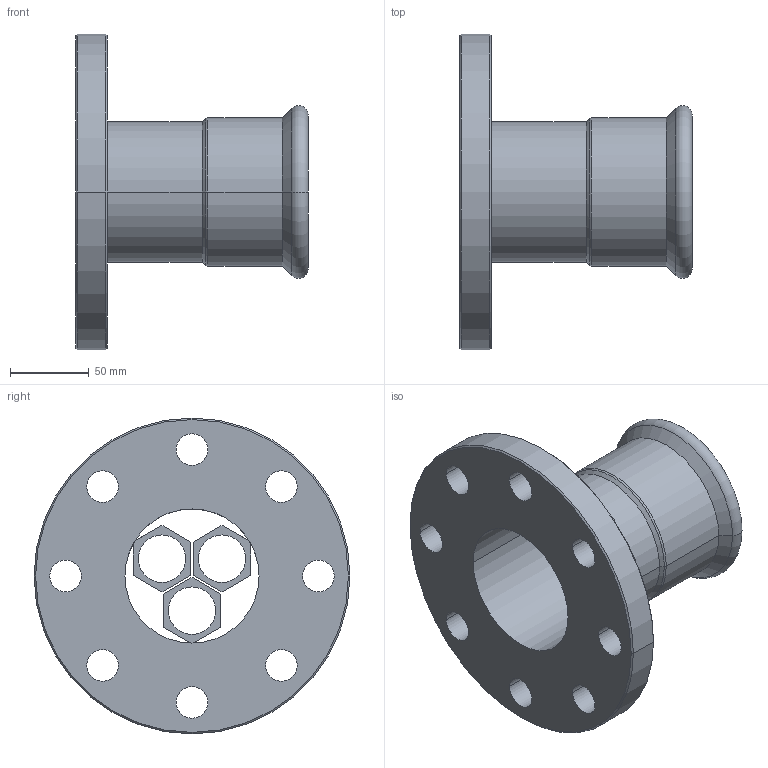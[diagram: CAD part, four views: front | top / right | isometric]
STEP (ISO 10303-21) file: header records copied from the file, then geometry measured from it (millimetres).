
FILE_DESCRIPTION(('OneSpaceDesigner STEP Export'),'2;1');
FILE_NAME('R2726 89.stp','2010-06-10T13:14:37',(''),(''),'OneSpace Designer STEP processor for AP214 (Solid Model)','OneSpace Modeling 15.00A 14-Mar-2007 (C) CoCreate Software GmbH','');
FILE_SCHEMA(('AUTOMOTIVE_DESIGN { 1 0 10303 214 1 1 1 1 }'));
Length unit declared in the file: millimetre
Products named in the file (2): R2726_89
Assembly tree (1 placements, depth 2):
  R2726_89
    R2726_89
Bounding box: 147 x 200 x 200 mm (x, y, z)
Volume: 570730.6 mm3; surface area: 154651.1 mm2
Topology: 1 solids, 1 shells, 81 faces, 206 edges, 133 vertices
Faces by surface type: cylinder 37, plane 32, cone 8, torus 4
Entity records: 2164 total; most frequent: ORIENTED_EDGE 412, CARTESIAN_POINT 342, DIRECTION 307, EDGE_CURVE 206, VERTEX_POINT 133, VECTOR 111, LINE 111, EDGE_LOOP 111
